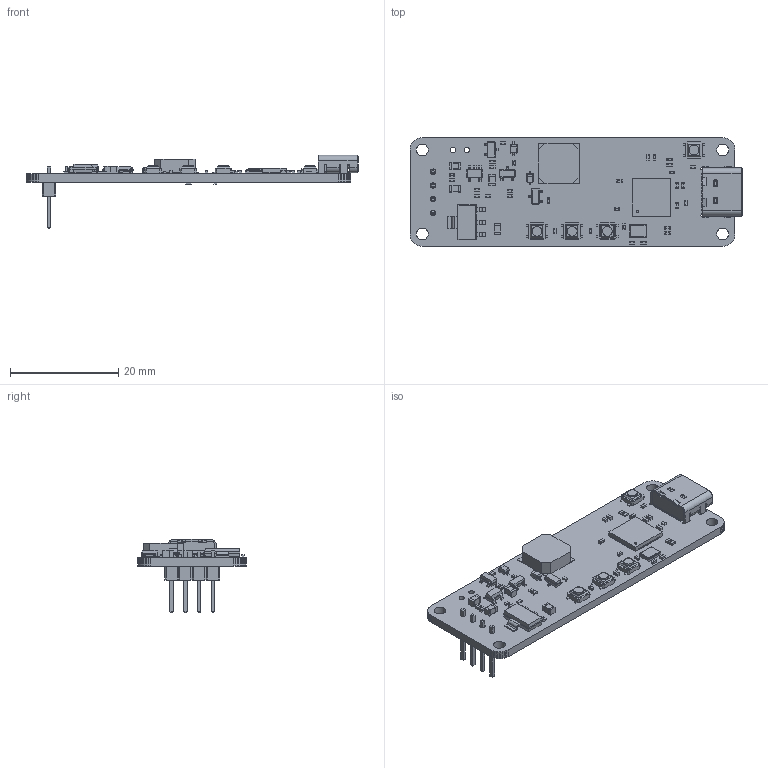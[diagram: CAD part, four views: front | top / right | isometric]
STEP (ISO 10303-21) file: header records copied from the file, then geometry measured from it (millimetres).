
FILE_DESCRIPTION(('KiCad electronic assembly'),'2;1');
FILE_NAME('rpi.step','2023-11-20T20:38:23',('Pcbnew'),('Kicad'), 'Open CASCADE STEP processor 7.6','KiCad to STEP converter','Unknown' );
FILE_SCHEMA(('AUTOMOTIVE_DESIGN { 1 0 10303 214 1 1 1 1 }'));
Length unit declared in the file: millimetre
Products named in the file (28): rpi 1; C_0402_1005Metric; SOLID; SOT-223; R_0402_1005Metric; button_ts3314a; COMPOUND; SOT-23; C_0805_2012Metric; SOT-23-5; D_SOD-323; buzzer_mlt-7525; u262-16xn-4bvc11; Crystal_SMD_3225-4Pin_3.2x2.5mm; QFN-56-1EP_7x7mm_P0.4mm_EP3.2x3.2mm; PinHeader_1x04_P2.54mm_Vertical; rpi PCB
Assembly tree (67 placements, depth 3):
  rpi 1
    C_0402_1005Metric  x18
      SOLID
    SOT-223
      SOLID
    R_0402_1005Metric  x15
      SOLID
    button_ts3314a  x4
      COMPOUND
    SOT-23  x3
      SOLID
    C_0805_2012Metric  x4
      SOLID
    SOT-23-5
      SOLID
    D_SOD-323  x2
      SOLID
    buzzer_mlt-7525
      COMPOUND
    u262-16xn-4bvc11
      COMPOUND
    Crystal_SMD_3225-4Pin_3.2x2.5mm
      SOLID
    QFN-56-1EP_7x7mm_P0.4mm_EP3.2x3.2mm
      SOLID
    PinHeader_1x04_P2.54mm_Vertical
      SOLID
    rpi PCB
Bounding box: 61.3 x 20 x 13.52 mm (x, y, z)
Volume: 2357.4 mm3; surface area: 4225.2 mm2
Topology: 72 solids, 72 shells, 2766 faces, 7210 edges, 4649 vertices
Faces by surface type: plane 1946, cylinder 606, bspline 178, torus 20, cone 8, sphere 8
Full cylindrical faces by diameter (mm): 0.4 x1, 0.65 x2, 1 x6, 1.8 x4, 2.2 x4
Entity records: 103805 total; most frequent: CARTESIAN_POINT 18891, DIRECTION 14816, LINE 10671, VECTOR 10671, ORIENTED_EDGE 8034, PCURVE 8034, DEFINITIONAL_REPRESENTATION 8034, EDGE_CURVE 4017
